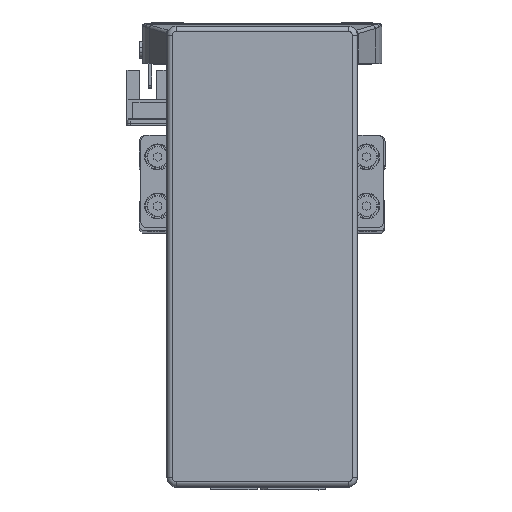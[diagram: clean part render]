
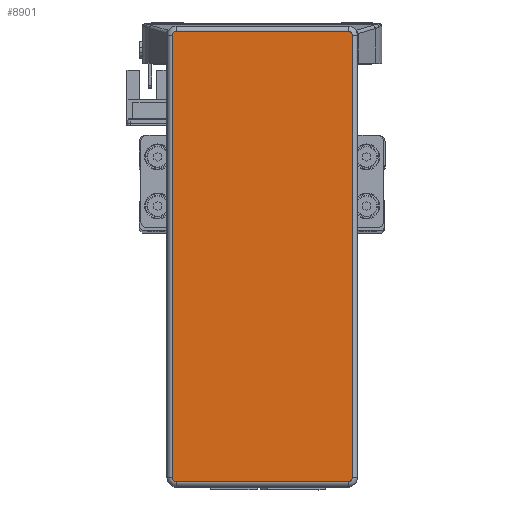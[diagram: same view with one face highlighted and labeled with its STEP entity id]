
A CAD part, top view. The second image highlights one B-rep face of the part: STEP entity #8901.
In plain terms, the highlighted planar face has unit normal (0, 0, 1) as drawn and (0, 0, -1) by its records, which use the part's own axes.
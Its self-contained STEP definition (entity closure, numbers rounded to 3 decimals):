
#2850 = AXIS2_PLACEMENT_3D ( 'NONE', #10254, #10163, #10186 ) ;
#5692 = DIRECTION ( 'NONE',  ( 1., 0., 0. ) ) ;
#5697 = CARTESIAN_POINT ( 'NONE',  ( -71.995, 27.995, -32.2 ) ) ;
#5699 = DIRECTION ( 'NONE',  ( 0., 0., -1. ) ) ;
#5701 = DIRECTION ( 'NONE',  ( 1., 0., 0. ) ) ;
#5722 = CARTESIAN_POINT ( 'NONE',  ( 71.995, 29.295, -32.2 ) ) ;
#5724 = CARTESIAN_POINT ( 'NONE',  ( 71.995, -29.295, -32.2 ) ) ;
#5733 = DIRECTION ( 'NONE',  ( -1., 0., 0. ) ) ;
#5737 = DIRECTION ( 'NONE',  ( 1., 0., 0. ) ) ;
#5741 = DIRECTION ( 'NONE',  ( 0., 0., -1. ) ) ;
#5760 = CARTESIAN_POINT ( 'NONE',  ( 71.995, 27.995, -32.2 ) ) ;
#5783 = EDGE_CURVE ( 'NONE', #27051, #27106, #29894, .T. ) ;
#5799 = EDGE_CURVE ( 'NONE', #27106, #27061, #29910, .T. ) ;
#5802 = EDGE_CURVE ( 'NONE', #27063, #27070, #29876, .T. ) ;
#5819 = EDGE_CURVE ( 'NONE', #27070, #26970, #29912, .T. ) ;
#5872 = EDGE_CURVE ( 'NONE', #27080, #27068, #30020, .T. ) ;
#5873 = EDGE_CURVE ( 'NONE', #26970, #27080, #30028, .T. ) ;
#5874 = EDGE_CURVE ( 'NONE', #27068, #27051, #30004, .T. ) ;
#5876 = EDGE_CURVE ( 'NONE', #27061, #27063, #30032, .T. ) ;
#8901 = ADVANCED_FACE ( 'NONE', ( #15616 ), #10199, .F. ) ;
#10163 = DIRECTION ( 'NONE',  ( 0., 0., 1. ) ) ;
#10186 = DIRECTION ( 'NONE',  ( 1., 0., 0. ) ) ;
#10199 = PLANE ( 'NONE',  #2850 ) ;
#10254 = CARTESIAN_POINT ( 'NONE',  ( 71.995, -27.995, -32.2 ) ) ;
#12107 = AXIS2_PLACEMENT_3D ( 'NONE', #21995, #21996, #21998 ) ;
#12112 = AXIS2_PLACEMENT_3D ( 'NONE', #22042, #22057, #22051 ) ;
#12173 = AXIS2_PLACEMENT_3D ( 'NONE', #5760, #5741, #5737 ) ;
#12175 = AXIS2_PLACEMENT_3D ( 'NONE', #5697, #5699, #5701 ) ;
#15616 = FACE_OUTER_BOUND ( 'NONE', #26689, .T. ) ;
#20403 = ORIENTED_EDGE ( 'NONE', *, *, #5872, .T. ) ;
#20414 = ORIENTED_EDGE ( 'NONE', *, *, #5819, .T. ) ;
#20446 = ORIENTED_EDGE ( 'NONE', *, *, #5873, .T. ) ;
#20457 = ORIENTED_EDGE ( 'NONE', *, *, #5874, .T. ) ;
#20492 = ORIENTED_EDGE ( 'NONE', *, *, #5876, .T. ) ;
#20497 = ORIENTED_EDGE ( 'NONE', *, *, #5802, .T. ) ;
#20511 = ORIENTED_EDGE ( 'NONE', *, *, #5783, .T. ) ;
#20519 = ORIENTED_EDGE ( 'NONE', *, *, #5799, .T. ) ;
#21936 = DIRECTION ( 'NONE',  ( 0., -1., 0. ) ) ;
#21958 = CARTESIAN_POINT ( 'NONE',  ( 73.295, -27.995, -32.2 ) ) ;
#21995 = CARTESIAN_POINT ( 'NONE',  ( 71.995, -27.995, -32.2 ) ) ;
#21996 = DIRECTION ( 'NONE',  ( 0., 0., -1. ) ) ;
#21998 = DIRECTION ( 'NONE',  ( 1., 0., 0. ) ) ;
#22042 = CARTESIAN_POINT ( 'NONE',  ( -71.995, -27.995, -32.2 ) ) ;
#22051 = DIRECTION ( 'NONE',  ( 1., 0., 0. ) ) ;
#22057 = DIRECTION ( 'NONE',  ( 0., 0., -1. ) ) ;
#22067 = DIRECTION ( 'NONE',  ( 0., 1., 0. ) ) ;
#22082 = CARTESIAN_POINT ( 'NONE',  ( -73.295, -27.995, -32.2 ) ) ;
#26689 = EDGE_LOOP ( 'NONE', ( #20511, #20519, #20492, #20497, #20414, #20446, #20403, #20457 ) ) ;
#26970 = VERTEX_POINT ( 'NONE', #37066 ) ;
#27051 = VERTEX_POINT ( 'NONE', #37095 ) ;
#27061 = VERTEX_POINT ( 'NONE', #37124 ) ;
#27063 = VERTEX_POINT ( 'NONE', #37101 ) ;
#27068 = VERTEX_POINT ( 'NONE', #37137 ) ;
#27070 = VERTEX_POINT ( 'NONE', #37151 ) ;
#27080 = VERTEX_POINT ( 'NONE', #37154 ) ;
#27106 = VERTEX_POINT ( 'NONE', #37144 ) ;
#29860 = VECTOR ( 'NONE', #21936, 1000. ) ;
#29876 = CIRCLE ( 'NONE', #12112, 1.3 ) ;
#29894 = LINE ( 'NONE', #21958, #29860 ) ;
#29910 = CIRCLE ( 'NONE', #12107, 1.3 ) ;
#29912 = LINE ( 'NONE', #22082, #29929 ) ;
#29929 = VECTOR ( 'NONE', #22067, 1000. ) ;
#29987 = VECTOR ( 'NONE', #5692, 1000. ) ;
#30003 = VECTOR ( 'NONE', #5733, 1000. ) ;
#30004 = CIRCLE ( 'NONE', #12173, 1.3 ) ;
#30020 = LINE ( 'NONE', #5722, #29987 ) ;
#30028 = CIRCLE ( 'NONE', #12175, 1.3 ) ;
#30032 = LINE ( 'NONE', #5724, #30003 ) ;
#37066 = CARTESIAN_POINT ( 'NONE',  ( -73.295, 27.995, -32.2 ) ) ;
#37095 = CARTESIAN_POINT ( 'NONE',  ( 73.295, 27.995, -32.2 ) ) ;
#37101 = CARTESIAN_POINT ( 'NONE',  ( -71.995, -29.295, -32.2 ) ) ;
#37124 = CARTESIAN_POINT ( 'NONE',  ( 71.995, -29.295, -32.2 ) ) ;
#37137 = CARTESIAN_POINT ( 'NONE',  ( 71.995, 29.295, -32.2 ) ) ;
#37144 = CARTESIAN_POINT ( 'NONE',  ( 73.295, -27.995, -32.2 ) ) ;
#37151 = CARTESIAN_POINT ( 'NONE',  ( -73.295, -27.995, -32.2 ) ) ;
#37154 = CARTESIAN_POINT ( 'NONE',  ( -71.995, 29.295, -32.2 ) ) ;
